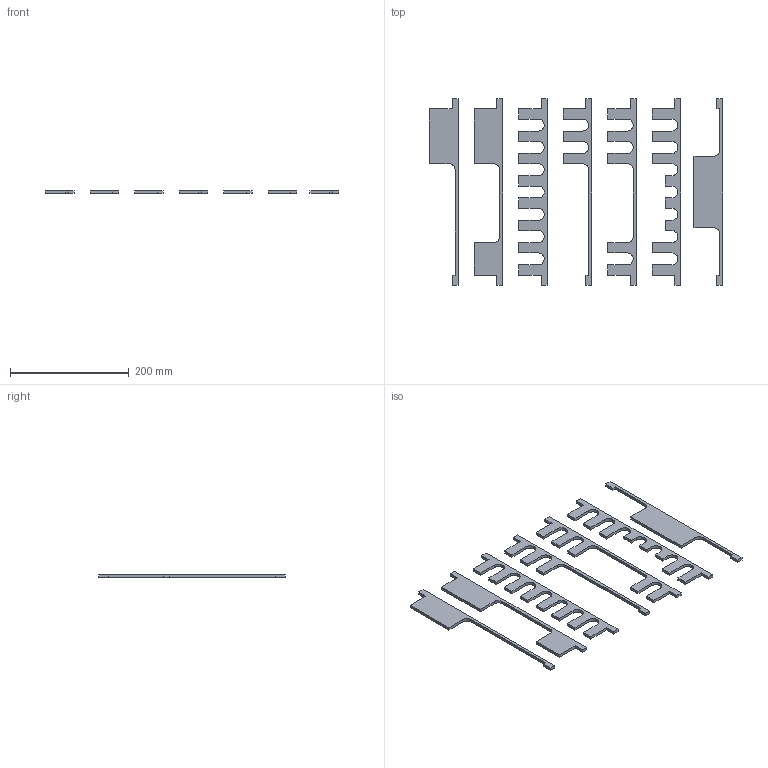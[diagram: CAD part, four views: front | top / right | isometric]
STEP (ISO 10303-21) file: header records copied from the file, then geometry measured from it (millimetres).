
FILE_DESCRIPTION(/* description */ (''),/* implementation_level */ '2;1');
FILE_NAME(/* name */ 'PROTO_ensemble v15.step',/* time_stamp */ '2025-08-04T10:04:36+02:00',/* author */ (''),/* organization */ (''),/* preprocessor_version */ 'ST-DEVELOPER v20.1',/* originating_system */ 'Autodesk Translation Framework v14.10.0.0',/* authorisation */ '');
FILE_SCHEMA (('AUTOMOTIVE_DESIGN { 1 0 10303 214 3 1 1 }'));
Length unit declared in the file: millimetre
Products named in the file (1): PROTO_ensemble
Bounding box: 493 x 314 x 5 mm (x, y, z)
Volume: 227892.1 mm3; surface area: 124094.7 mm2
Topology: 7 solids, 7 shells, 170 faces, 468 edges, 312 vertices
Faces by surface type: plane 143, cylinder 27
Entity records: 5373 total; most frequent: CARTESIAN_POINT 951, ORIENTED_EDGE 936, DIRECTION 864, EDGE_CURVE 468, LINE 414, VECTOR 414, VERTEX_POINT 312, AXIS2_PLACEMENT_3D 225
